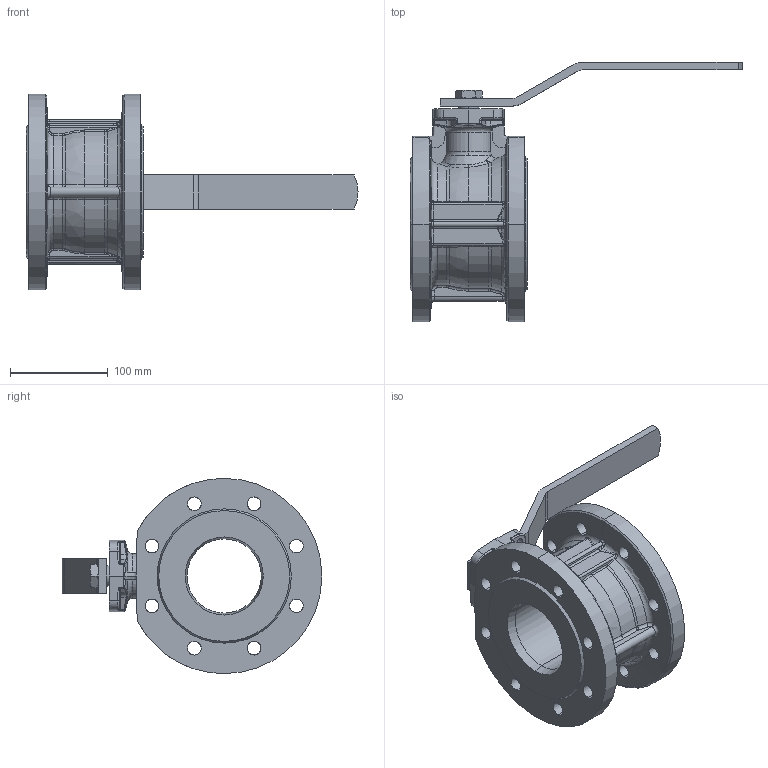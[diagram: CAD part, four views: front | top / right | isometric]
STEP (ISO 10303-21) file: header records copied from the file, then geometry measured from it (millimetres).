
FILE_DESCRIPTION (( 'STEP AP203' ), '1' );
FILE_NAME ('B1_080.STEP', '2012-06-11T14:47:51', ( ' ' ), ( '' ), 'SwSTEP 2.0', 'SolidWorks 2009', '' );
FILE_SCHEMA (( 'CONFIG_CONTROL_DESIGN' ));
Length unit declared in the file: millimetre
Products named in the file (1): B1_080
Bounding box: 340 x 266 x 200 mm (x, y, z)
Volume: 1954491.1 mm3; surface area: 224019.4 mm2
Topology: 1 solids, 3 shells, 477 faces, 1196 edges, 717 vertices
Faces by surface type: bspline 164, cylinder 137, plane 84, cone 50, torus 30, sphere 12
Entity records: 21776 total; most frequent: CARTESIAN_POINT 11688, ORIENTED_EDGE 2376, DIRECTION 1735, EDGE_CURVE 1188, AXIS2_PLACEMENT_3D 728, VERTEX_POINT 717, EDGE_LOOP 519, FACE_OUTER_BOUND 477
